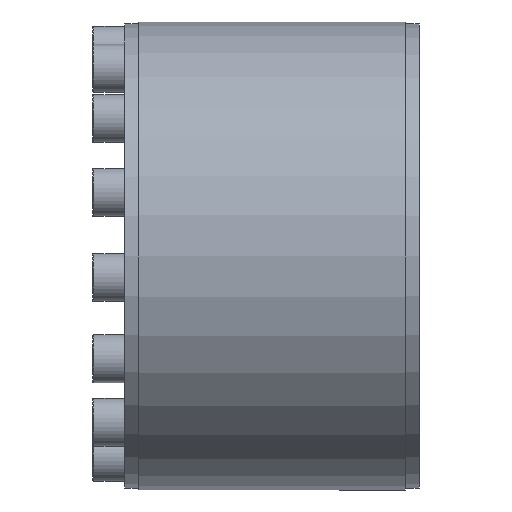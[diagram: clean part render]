
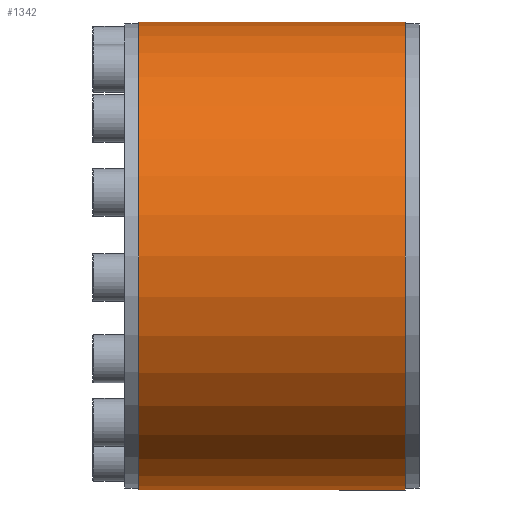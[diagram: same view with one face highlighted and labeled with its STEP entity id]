
A CAD part, left-side view. The second image highlights one B-rep face of the part: STEP entity #1342.
In plain terms, the highlighted cylindrical face has radius 117.5 mm (diameter 235 mm), a partial arc.
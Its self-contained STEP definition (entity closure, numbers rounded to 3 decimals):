
#69 = ORIENTED_EDGE ( 'NONE', *, *, #3214, .T. ) ;
#79 = AXIS2_PLACEMENT_3D ( 'NONE', #1586, #4552, #1091 ) ;
#172 = CARTESIAN_POINT ( 'NONE',  ( 0., -67., -117.5 ) ) ;
#239 = VECTOR ( 'NONE', #5074, 1000. ) ;
#286 = AXIS2_PLACEMENT_3D ( 'NONE', #2180, #3439, #4282 ) ;
#320 = DIRECTION ( 'NONE',  ( 0., 0., -1. ) ) ;
#652 = EDGE_CURVE ( 'NONE', #1977, #3937, #943, .T. ) ;
#723 = LINE ( 'NONE', #4456, #5235 ) ;
#811 = DIRECTION ( 'NONE',  ( 0., -1., 0. ) ) ;
#894 = CARTESIAN_POINT ( 'NONE',  ( 0., 0., -117.5 ) ) ;
#943 = CIRCLE ( 'NONE', #79, 117.5 ) ;
#990 = VERTEX_POINT ( 'NONE', #1088 ) ;
#1088 = CARTESIAN_POINT ( 'NONE',  ( 0., 67., -117.5 ) ) ;
#1091 = DIRECTION ( 'NONE',  ( 0., 0., -1. ) ) ;
#1257 = ORIENTED_EDGE ( 'NONE', *, *, #3508, .F. ) ;
#1342 = ADVANCED_FACE ( 'NONE', ( #2703 ), #2176, .T. ) ;
#1586 = CARTESIAN_POINT ( 'NONE',  ( 0., -67., 0. ) ) ;
#1977 = VERTEX_POINT ( 'NONE', #3565 ) ;
#2176 = CYLINDRICAL_SURFACE ( 'NONE', #286, 117.5 ) ;
#2180 = CARTESIAN_POINT ( 'NONE',  ( 0., 0., 0. ) ) ;
#2326 = VERTEX_POINT ( 'NONE', #2494 ) ;
#2494 = CARTESIAN_POINT ( 'NONE',  ( 0., 67., 117.5 ) ) ;
#2703 = FACE_OUTER_BOUND ( 'NONE', #3475, .T. ) ;
#3071 = ORIENTED_EDGE ( 'NONE', *, *, #652, .F. ) ;
#3214 = EDGE_CURVE ( 'NONE', #2326, #990, #3757, .T. ) ;
#3439 = DIRECTION ( 'NONE',  ( 0., -1., 0. ) ) ;
#3475 = EDGE_LOOP ( 'NONE', ( #1257, #69, #3617, #3071 ) ) ;
#3508 = EDGE_CURVE ( 'NONE', #2326, #1977, #723, .T. ) ;
#3565 = CARTESIAN_POINT ( 'NONE',  ( 0., -67., 117.5 ) ) ;
#3617 = ORIENTED_EDGE ( 'NONE', *, *, #5297, .T. ) ;
#3757 = CIRCLE ( 'NONE', #4554, 117.5 ) ;
#3937 = VERTEX_POINT ( 'NONE', #172 ) ;
#4001 = LINE ( 'NONE', #894, #239 ) ;
#4282 = DIRECTION ( 'NONE',  ( 0., 0., -1. ) ) ;
#4456 = CARTESIAN_POINT ( 'NONE',  ( 0., 0., 117.5 ) ) ;
#4552 = DIRECTION ( 'NONE',  ( 0., -1., 0. ) ) ;
#4554 = AXIS2_PLACEMENT_3D ( 'NONE', #5351, #811, #320 ) ;
#5074 = DIRECTION ( 'NONE',  ( 0., -1., 0. ) ) ;
#5235 = VECTOR ( 'NONE', #5409, 1000. ) ;
#5297 = EDGE_CURVE ( 'NONE', #990, #3937, #4001, .T. ) ;
#5351 = CARTESIAN_POINT ( 'NONE',  ( 0., 67., 0. ) ) ;
#5409 = DIRECTION ( 'NONE',  ( 0., -1., 0. ) ) ;
